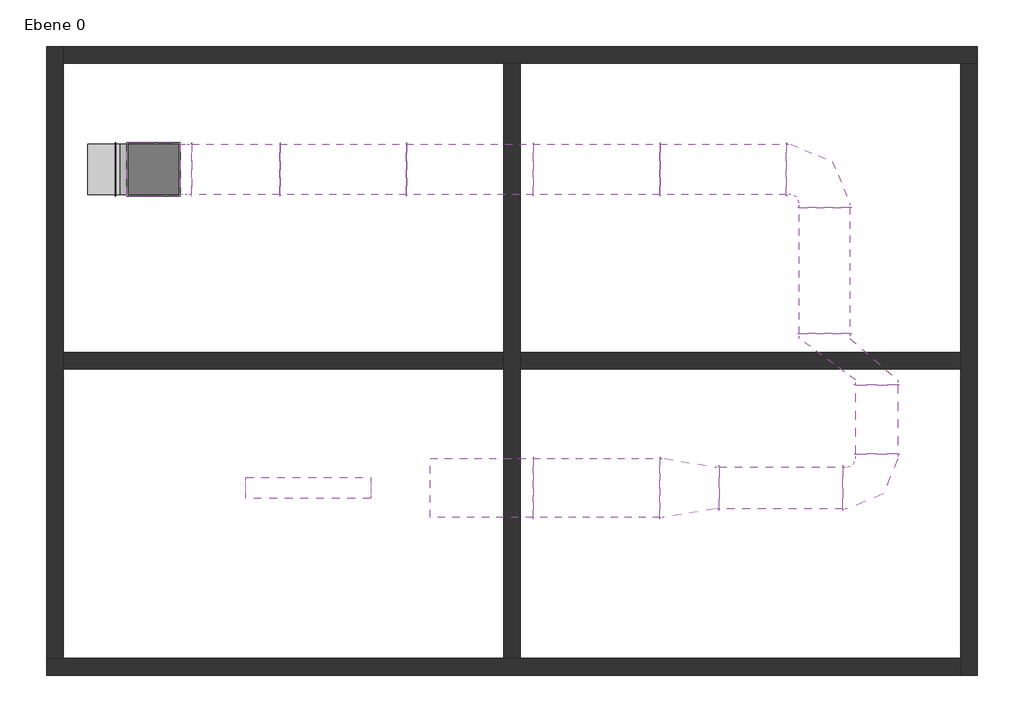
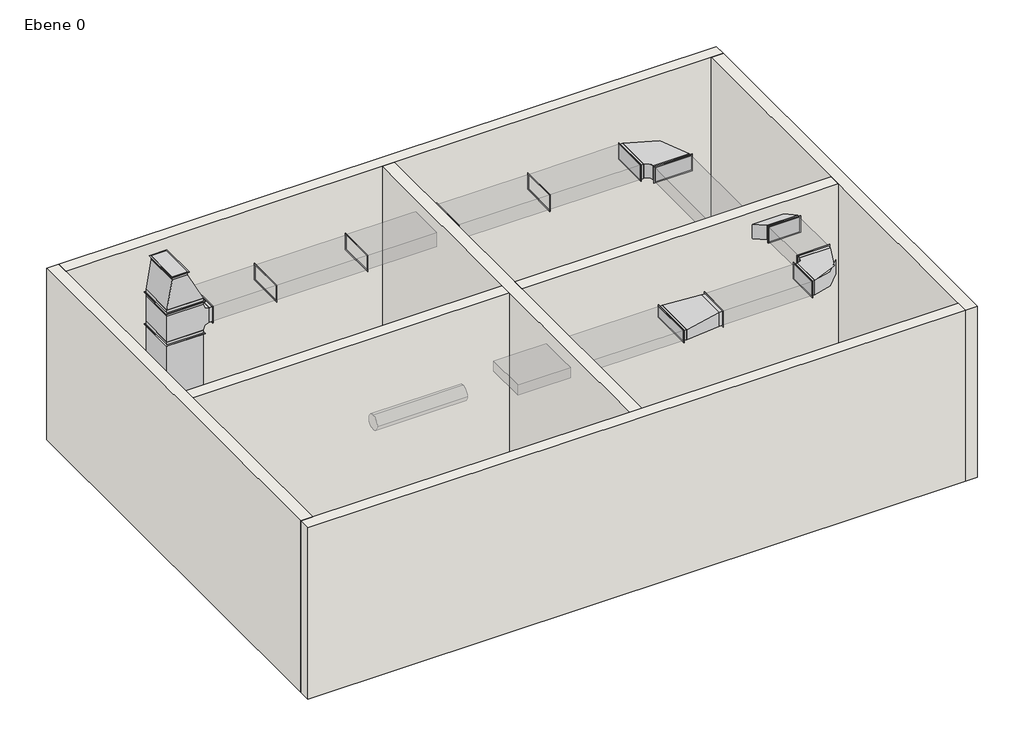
# One storey, incomplete: 13 duct segments, 12 duct fittings, 6 walls.
"""IFC4 building model written with IfcOpenShell, lengths in millimetres."""

import ifcopenshell
import ifcopenshell.guid

model = None  # the IFC model being written
_history = None  # IfcOwnerHistory: only IFC2X3 demands one
_inside = {}  # id of a spatial element -> (the spatial element, [elements in it])
_under = {}  # id of a project, library or spatial element -> (it, [spatial elements below it])
_declared = {}  # id of a project -> (the project, [libraries it declares])
_typed = {}  # id of a type object -> (the type object, [elements of that type])
_made_of = {}  # id of a material, layer set ... -> (it, [elements and type objects made of it])


def new_model(schema):
    """Start an empty IFC model of exactly this schema.

    Asked for "IFC4X3", IfcOpenShell would pick the latest addendum, in which some entities
    have other attributes; the version numbers below select the first issue.
    IFC2X3 requires an IfcOwnerHistory on every rooted entity: one is made here for all.
    """
    global model, _history
    if schema == "IFC4X3":
        model = ifcopenshell.file(schema_version=(4, 3, 0, 0))
    else:
        model = ifcopenshell.file(schema=schema)
    _inside.clear()
    _under.clear()
    _declared.clear()
    _typed.clear()
    _made_of.clear()
    _history = None
    if model.schema == "IFC2X3":
        org = make("IfcOrganization", Name="unknown")
        user = make(
            "IfcPersonAndOrganization",
            ThePerson=make("IfcPerson", FamilyName="unknown"),
            TheOrganization=org,
        )
        app = make(
            "IfcApplication",
            ApplicationDeveloper=org,
            Version="unknown",
            ApplicationFullName="unknown",
            ApplicationIdentifier="unknown",
        )
        _history = make(
            "IfcOwnerHistory",
            OwningUser=user,
            OwningApplication=app,
            ChangeAction="ADDED",
            CreationDate=0,
        )
    return model


def make(cls, **values):
    """One entity of the class cls with the attributes given. An attribute that is None is left unset."""
    return model.create_entity(
        cls, **{name: value for name, value in values.items() if value is not None}
    )


def rooted(cls, **values):
    """An entity with a GlobalId (a new one), such as an element, a storey or a relation."""
    return make(cls, GlobalId=ifcopenshell.guid.new(), OwnerHistory=_history, **values)


def si_unit(unit_type, name, prefix=None):
    """IfcSIUnit, for example si_unit("LENGTHUNIT", "METRE", prefix="MILLI")."""
    return make("IfcSIUnit", UnitType=unit_type, Prefix=prefix, Name=name)


def assignment(units):
    """IfcUnitAssignment: the units of a project."""
    return None if units is None else make("IfcUnitAssignment", Units=units)


def point(xyz):
    """IfcCartesianPoint."""
    return None if xyz is None else make("IfcCartesianPoint", Coordinates=xyz)


def direction(xyz):
    """IfcDirection."""
    return None if xyz is None else make("IfcDirection", DirectionRatios=xyz)


def frame(location, z_axis=None, x_axis=None):
    """IfcAxis2Placement3D, a coordinate frame: its origin and axes. An axis left out is left unset."""
    return make(
        "IfcAxis2Placement3D",
        Location=point(location),
        Axis=direction(z_axis),
        RefDirection=direction(x_axis),
    )


def frame_2d(location, x_axis=None):
    """IfcAxis2Placement2D, a coordinate frame in the plane: its origin and x axis."""
    return make(
        "IfcAxis2Placement2D", Location=point(location), RefDirection=direction(x_axis)
    )


def origin():
    """The frame at (0, 0, 0) with its axes left unset."""
    return frame((0.0, 0.0, 0.0))


def origin_with_axes():
    """The frame at (0, 0, 0) with the z axis (0, 0, 1) and the x axis (1, 0, 0) written out."""
    return frame((0.0, 0.0, 0.0), z_axis=(0.0, 0.0, 1.0), x_axis=(1.0, 0.0, 0.0))


def place(relative_to, where):
    """IfcLocalPlacement: puts the frame where relative to a parent placement (None: the world)."""
    return make(
        "IfcLocalPlacement", PlacementRelTo=relative_to, RelativePlacement=where
    )


def context(
    kind, dimensions, precision=None, world=None, true_north=None, identifier=None
):
    """IfcGeometricRepresentationContext, for example the 3D "Model" context."""
    return make(
        "IfcGeometricRepresentationContext",
        ContextIdentifier=identifier,
        ContextType=kind,
        CoordinateSpaceDimension=dimensions,
        Precision=precision,
        WorldCoordinateSystem=world,
        TrueNorth=true_north,
    )


def project(units=None, contexts=None):
    """IfcProject with its units and contexts."""
    return rooted(
        "IfcProject",
        Name="project",
        RepresentationContexts=contexts,
        UnitsInContext=assignment(units),
    )


def spatial(cls, under=None, at=None, **own):
    """A site, building, storey or space (cls), placed at a placement, below another one or the project."""
    s = rooted(cls, ObjectPlacement=at, **own)
    if under is not None:
        _under.setdefault(under.id(), (under, []))[1].append(s)
    return s


def polyline(points):
    """IfcPolyline through the points."""
    return make("IfcPolyline", Points=[point(p) for p in points])


def circle_curve(where, radius):
    """IfcCircle in the frame where."""
    return make("IfcCircle", Position=where, Radius=radius)


def trimmed(basis, trim1, trim2, sense, master):
    """IfcTrimmedCurve: the piece of a basis curve between two trims."""
    return make(
        "IfcTrimmedCurve",
        BasisCurve=basis,
        Trim1=trim1,
        Trim2=trim2,
        SenseAgreement=sense,
        MasterRepresentation=master,
    )


def segment(curve, same_sense, transition):
    """IfcCompositeCurveSegment."""
    return make(
        "IfcCompositeCurveSegment",
        Transition=transition,
        SameSense=same_sense,
        ParentCurve=curve,
    )


def composite_curve(segments, self_intersect=None):
    """IfcCompositeCurve: segments joined end to end."""
    return make("IfcCompositeCurve", Segments=segments, SelfIntersect=self_intersect)


def outline(outer, holes=None, kind="AREA"):
    """IfcArbitraryClosedProfileDef: a profile drawn as a closed curve; with holes, ...WithVoids."""
    if holes is None:
        return make("IfcArbitraryClosedProfileDef", ProfileType=kind, OuterCurve=outer)
    return make(
        "IfcArbitraryProfileDefWithVoids",
        ProfileType=kind,
        OuterCurve=outer,
        InnerCurves=holes,
    )


def extrude(swept, where, along, depth):
    """IfcExtrudedAreaSolid: the profile swept, set in the frame where, extruded along a direction by depth."""
    return make(
        "IfcExtrudedAreaSolid",
        SweptArea=swept,
        Position=where,
        ExtrudedDirection=direction(along),
        Depth=depth,
    )


def faces_of(points, faces, orient=None, outer=None):
    """IfcFace entities. A face is a list of loops; a loop is a list of indices into points, from 0.

    orient and outer hold one flag for each loop. By default every Orientation is true, the
    first loop of a face is its IfcFaceOuterBound and the others are IfcFaceBound.
    """
    made = []
    for i, loops in enumerate(faces):
        bounds = []
        for j, loop in enumerate(loops):
            is_outer = j == 0 if outer is None else outer[i][j]
            bounds.append(
                make(
                    "IfcFaceOuterBound" if is_outer else "IfcFaceBound",
                    Bound=make("IfcPolyLoop", Polygon=[points[k] for k in loop]),
                    Orientation=True if orient is None else orient[i][j],
                )
            )
        made.append(make("IfcFace", Bounds=bounds))
    return made


def faceted_brep(points, faces, orient=None, outer=None, voids=None):
    """IfcFacetedBrep: a solid bounded by flat faces; with voids (closed shells), ...WithVoids."""
    shared = [point(p) for p in points]
    hull = make("IfcClosedShell", CfsFaces=faces_of(shared, faces, orient, outer))
    if voids is None:
        return make("IfcFacetedBrep", Outer=hull)
    return make(
        "IfcFacetedBrepWithVoids",
        Outer=hull,
        Voids=[
            make(cls, CfsFaces=faces_of(shared, fs, o, b)) for cls, fs, o, b in voids
        ],
    )


def shape(context_of_items, identifier, shape_type, items):
    """IfcShapeRepresentation: the items that make up one representation, for example the "Body"."""
    return make(
        "IfcShapeRepresentation",
        ContextOfItems=context_of_items,
        RepresentationIdentifier=identifier,
        RepresentationType=shape_type,
        Items=items,
    )


def source(mapping_origin, context_of_items, identifier, shape_type, items):
    """IfcRepresentationMap: a shape defined once, which mapped items show again and again."""
    return make(
        "IfcRepresentationMap",
        MappingOrigin=mapping_origin,
        MappedRepresentation=shape(context_of_items, identifier, shape_type, items),
    )


def transform(
    local_origin,
    x_axis=None,
    y_axis=None,
    z_axis=None,
    scale=None,
    scale2=None,
    scale3=None,
    uniform=True,
):
    """IfcCartesianTransformationOperator3D, or its non-uniform kind. x_axis, y_axis, z_axis: its Axis1, 2, 3."""
    if uniform:
        return make(
            "IfcCartesianTransformationOperator3D",
            Axis1=direction(x_axis),
            Axis2=direction(y_axis),
            LocalOrigin=point(local_origin),
            Scale=scale,
            Axis3=direction(z_axis),
        )
    return make(
        "IfcCartesianTransformationOperator3DnonUniform",
        Axis1=direction(x_axis),
        Axis2=direction(y_axis),
        LocalOrigin=point(local_origin),
        Scale=scale,
        Axis3=direction(z_axis),
        Scale2=scale2,
        Scale3=scale3,
    )


def mapped(mapping_source, mapping_target):
    """IfcMappedItem: shows the shape of a source again, moved by a transform."""
    return make(
        "IfcMappedItem", MappingSource=mapping_source, MappingTarget=mapping_target
    )


def made_of(thing, what):
    """Note that an element or type object is made of a material, layer set ...; save() writes the relation."""
    if what is not None:
        _made_of.setdefault(what.id(), (what, []))[1].append(thing)
    return thing


def element(
    cls,
    number,
    at=None,
    inside=None,
    cuts=None,
    type_object=None,
    material=None,
    context=None,
    identifier="Body",
    shape_type=None,
    held_by="IfcProductDefinitionShape",
    body=None,
    shapes=None,
    **own,
):
    """One element of the class cls, such as IfcWall. Its Tag is "e" and its number.

    at: its placement. inside: the storey or other place that contains it. cuts: it is an
    opening in that element (IfcRelVoidsElement). A single representation is given by context,
    identifier, shape_type and body (its items); several are given by shapes. held_by: the class
    of the entity that holds the representations. save() writes the other relations.
    """
    e = rooted(cls, Tag="e%d" % number, ObjectPlacement=at, **own)
    if body is not None:
        shapes = [shape(context, identifier, shape_type, body)]
    if shapes is not None:
        e.Representation = make(held_by, Representations=shapes)
    if inside is not None:
        _inside.setdefault(inside.id(), (inside, []))[1].append(e)
    if cuts is not None:
        rooted(
            "IfcRelVoidsElement", RelatingBuildingElement=cuts, RelatedOpeningElement=e
        )
    if type_object is not None:
        _typed.setdefault(type_object.id(), (type_object, []))[1].append(e)
    return made_of(e, material)


def aggregate(whole, parts):
    """IfcRelAggregates: a whole, such as a stair, and the parts it consists of."""
    return rooted("IfcRelAggregates", RelatingObject=whole, RelatedObjects=parts)


def save(model, path):
    """Write the relations noted so far, then the file.

    IfcRelAggregates (storeys below a building ...), IfcRelContainedInSpatialStructure (elements
    in a storey), IfcRelDefinesByType, IfcRelAssociatesMaterial and IfcRelDeclares: one each for
    every whole, place, type object, material and project.
    """
    for whole, parts in _under.values():
        aggregate(whole, parts)
    for where, things in _inside.values():
        rooted(
            "IfcRelContainedInSpatialStructure",
            RelatedElements=things,
            RelatingStructure=where,
        )
    for kind, things in _typed.values():
        rooted("IfcRelDefinesByType", RelatedObjects=things, RelatingType=kind)
    for what, things in _made_of.values():
        rooted("IfcRelAssociatesMaterial", RelatedObjects=things, RelatingMaterial=what)
    for by, libraries in _declared.values():
        rooted("IfcRelDeclares", RelatingContext=by, RelatedDefinitions=libraries)
    model.write(path)


def standard_865bd023(model_context):
    return source(origin(), model_context, "Body", "SweptSolid", [
        extrude(outline(polyline([(300.0, 400.0), (-300.0, 400.0), (-300.0, 455.0), (300.0, 455.0), (300.0, 400.0)])), frame((0.0, 0.0, -125.0), z_axis=(0.0, 0.0, 1.0), x_axis=(1.0, 0.0, 0.0)), (0.0, 0.0, 1.0), 250.0),
        extrude(outline(polyline([(-455.0, 300.0), (-400.0, 300.0), (-400.0, -300.0), (-455.0, -300.0), (-455.0, 300.0)])), frame((0.0, 0.0, -125.0), z_axis=(0.0, 0.0, 1.0), x_axis=(1.0, 0.0, 0.0)), (0.0, 0.0, 1.0), 250.0),
        extrude(outline(composite_curve([segment(trimmed(circle_curve(frame_2d((-400.0, 400.0)), 700.0), [point((300.0, 400.0))], [point((-400.0, -300.0))], False, "CARTESIAN"), True, "CONTINUOUS"), segment(polyline([(-400.0, -300.0), (-400.0, 300.0)]), True, "CONTINUOUS"), segment(trimmed(circle_curve(frame_2d((-400.0, 400.0)), 100.0), [point((-400.0, 300.0))], [point((-300.0, 400.0))], True, "CARTESIAN"), True, "CONTINUOUS"), segment(polyline([(-300.0, 400.0), (300.0, 400.0)]), True, "CONTINUOUS")], self_intersect=False)), frame((0.0, 0.0, -125.0), z_axis=(0.0, 0.0, 1.0), x_axis=(1.0, 0.0, 0.0)), (0.0, 0.0, 1.0), 250.0),
        extrude(outline(polyline([(-455.0, -320.0), (-455.0, 320.0), (-450.0, 320.0), (-450.0, -320.0), (-455.0, -320.0)])), frame((0.0, 0.0, -145.0), z_axis=(0.0, 0.0, 1.0), x_axis=(1.0, 0.0, 0.0)), (0.0, 0.0, 1.0), 290.0),
        extrude(outline(polyline([(320.0, 450.0), (-320.0, 450.0), (-320.0, 455.0), (320.0, 455.0), (320.0, 450.0)])), frame((0.0, 0.0, -145.0), z_axis=(0.0, 0.0, 1.0), x_axis=(1.0, 0.0, 0.0)), (0.0, 0.0, 1.0), 290.0),
    ])


def standard_b8ae673c(model_context):
    return source(origin(), model_context, "Body", "SweptSolid", [
        extrude(outline(polyline([(-320.0, 145.0), (320.0, 145.0), (320.0, -145.0), (-320.0, -145.0), (-320.0, 145.0)]), holes=[polyline([(-300.0, 125.0), (-300.0, -125.0), (300.0, -125.0), (300.0, 125.0), (-300.0, 125.0)])]), frame((0.0, 0.0, 0.0), z_axis=(1.0, 0.0, 0.0), x_axis=(0.0, 1.0, 0.0)), (0.0, 0.0, 1.0), 5.0),
    ])


def standard_5b17af85(model_context):
    return source(origin(), model_context, "Body", "SweptSolid", [
        extrude(outline(polyline([(250.0, 350.0), (-250.0, 350.0), (-250.0, 405.0), (250.0, 405.0), (250.0, 350.0)])), frame((0.0, 0.0, -125.0), z_axis=(0.0, 0.0, 1.0), x_axis=(1.0, 0.0, 0.0)), (0.0, 0.0, 1.0), 250.0),
        extrude(outline(polyline([(-405.0, 250.0), (-350.0, 250.0), (-350.0, -250.0), (-405.0, -250.0), (-405.0, 250.0)])), frame((0.0, 0.0, -125.0), z_axis=(0.0, 0.0, 1.0), x_axis=(1.0, 0.0, 0.0)), (0.0, 0.0, 1.0), 250.0),
        extrude(outline(composite_curve([segment(trimmed(circle_curve(frame_2d((-350.0, 350.0)), 600.0), [point((250.0, 350.0))], [point((-350.0, -250.0))], False, "CARTESIAN"), True, "CONTINUOUS"), segment(polyline([(-350.0, -250.0), (-350.0, 250.0)]), True, "CONTINUOUS"), segment(trimmed(circle_curve(frame_2d((-350.0, 350.0)), 100.0), [point((-350.0, 250.0))], [point((-250.0, 350.0))], True, "CARTESIAN"), True, "CONTINUOUS"), segment(polyline([(-250.0, 350.0), (250.0, 350.0)]), True, "CONTINUOUS")], self_intersect=False)), frame((0.0, 0.0, -125.0), z_axis=(0.0, 0.0, 1.0), x_axis=(1.0, 0.0, 0.0)), (0.0, 0.0, 1.0), 250.0),
        extrude(outline(polyline([(-405.0, -270.0), (-405.0, 270.0), (-400.0, 270.0), (-400.0, -270.0), (-405.0, -270.0)])), frame((0.0, 0.0, -145.0), z_axis=(0.0, 0.0, 1.0), x_axis=(1.0, 0.0, 0.0)), (0.0, 0.0, 1.0), 290.0),
        extrude(outline(polyline([(270.0, 400.0), (-270.0, 400.0), (-270.0, 405.0), (270.0, 405.0), (270.0, 400.0)])), frame((0.0, 0.0, -145.0), z_axis=(0.0, 0.0, 1.0), x_axis=(1.0, 0.0, 0.0)), (0.0, 0.0, 1.0), 290.0),
    ])


def standard_06fb8837(model_context):
    return source(origin(), model_context, "Body", "SweptSolid", [
        extrude(outline(polyline([(555.0, 323.5465335), (555.0, 923.5465335), (610.0, 923.5465335), (610.0, 323.5465335), (555.0, 323.5465335)])), frame((0.0, 0.0, -125.0), z_axis=(0.0, 0.0, 1.0), x_axis=(1.0, 0.0, 0.0)), (0.0, 0.0, 1.0), 250.0),
        extrude(outline(polyline([(55.0, -250.0), (55.0, 250.0), (555.0, 923.5465335), (555.0, 323.5465335), (55.0, -250.0)])), frame((0.0, 0.0, -125.0), z_axis=(0.0, 0.0, 1.0), x_axis=(1.0, 0.0, 0.0)), (0.0, 0.0, 1.0), 250.0),
        extrude(outline(polyline([(0.0, -250.0), (0.0, 250.0), (55.0, 250.0), (55.0, -250.0), (0.0, -250.0)])), frame((0.0, 0.0, -125.0), z_axis=(0.0, 0.0, 1.0), x_axis=(1.0, 0.0, 0.0)), (0.0, 0.0, 1.0), 250.0),
        extrude(outline(polyline([(605.0, 303.5465335), (605.0, 943.5465335), (610.0, 943.5465335), (610.0, 303.5465335), (605.0, 303.5465335)])), frame((0.0, 0.0, -145.0), z_axis=(0.0, 0.0, 1.0), x_axis=(1.0, 0.0, 0.0)), (0.0, 0.0, 1.0), 290.0),
        extrude(outline(polyline([(0.0, -270.0), (0.0, 270.0), (5.0, 270.0), (5.0, -270.0), (0.0, -270.0)])), frame((0.0, 0.0, -145.0), z_axis=(0.0, 0.0, 1.0), x_axis=(1.0, 0.0, 0.0)), (0.0, 0.0, 1.0), 290.0),
    ])


def standard_ae849d8b(model_context):
    return source(origin(), model_context, "Body", "SweptSolid", [
        extrude(outline(polyline([(-370.0, 107.5), (370.0, 107.5), (370.0, -107.5), (-370.0, -107.5), (-370.0, 107.5)]), holes=[polyline([(-350.0, 87.5), (-350.0, -87.5), (350.0, -87.5), (350.0, 87.5), (-350.0, 87.5)])]), frame((0.0, 0.0, 0.0), z_axis=(1.0, 0.0, 0.0), x_axis=(0.0, 1.0, 0.0)), (0.0, 0.0, 1.0), 5.0),
    ])


def standard_6fa5d38b(model_context):
    return source(origin(), model_context, "Body", "SolidModel", [
        extrude(outline(polyline([(655.0, -250.0), (655.0, 250.0), (710.0, 250.0), (710.0, -250.0), (655.0, -250.0)])), frame((0.0, 0.0, -125.0), z_axis=(0.0, 0.0, 1.0), x_axis=(1.0, 0.0, 0.0)), (0.0, 0.0, 1.0), 250.0),
        faceted_brep([(655.0, 250.0, 125.0), (655.0, -250.0, 125.0), (655.0, -250.0, -125.0), (655.0, 250.0, -125.0), (55.0, 350.0, 87.5), (55.0, 350.0, -87.5), (55.0, -350.0, -87.5), (55.0, -350.0, 87.5)], [[[0, 1, 2, 3]], [[4, 5, 6, 7]], [[5, 4, 0, 3]], [[4, 7, 1, 0]], [[7, 6, 2, 1]], [[6, 5, 3, 2]]]),
        extrude(outline(polyline([(0.0, -350.0), (0.0, 350.0), (55.0, 350.0), (55.0, -350.0), (0.0, -350.0)])), frame((0.0, 0.0, -87.5), z_axis=(0.0, 0.0, 1.0), x_axis=(1.0, 0.0, 0.0)), (0.0, 0.0, 1.0), 175.0),
        extrude(outline(polyline([(705.0, -270.0), (705.0, 270.0), (710.0, 270.0), (710.0, -270.0), (705.0, -270.0)])), frame((0.0, 0.0, -145.0), z_axis=(0.0, 0.0, 1.0), x_axis=(1.0, 0.0, 0.0)), (0.0, 0.0, 1.0), 290.0),
        extrude(outline(polyline([(0.0, -370.0), (0.0, 370.0), (5.0, 370.0), (5.0, -370.0), (0.0, -370.0)])), frame((0.0, 0.0, -107.5), z_axis=(0.0, 0.0, 1.0), x_axis=(1.0, 0.0, 0.0)), (0.0, 0.0, 1.0), 215.0),
    ])


def standard_9a327c88(model_context):
    return source(origin(), model_context, "Body", "SweptSolid", [
        extrude(outline(polyline([(555.0, -300.0), (555.0, 300.0), (610.0, 300.0), (610.0, -300.0), (555.0, -300.0)])), frame((0.0, 0.0, -212.5), z_axis=(0.0, 0.0, 1.0), x_axis=(1.0, 0.0, 0.0)), (0.0, 0.0, 1.0), 250.0),
        extrude(outline(polyline([(300.0, 55.0), (-300.0, 55.0), (-212.5, 555.0), (37.5, 555.0), (300.0, 55.0)])), frame((0.0, -300.0, 0.0), z_axis=(0.0, 1.0, 0.0), x_axis=(0.0, 0.0, 1.0)), (0.0, 0.0, 1.0), 600.0),
        extrude(outline(polyline([(0.0, -300.0), (0.0, 300.0), (55.0, 300.0), (55.0, -300.0), (0.0, -300.0)])), frame((0.0, 0.0, -300.0), z_axis=(0.0, 0.0, 1.0), x_axis=(1.0, 0.0, 0.0)), (0.0, 0.0, 1.0), 600.0),
        extrude(outline(polyline([(605.0, -320.0), (605.0, 320.0), (610.0, 320.0), (610.0, -320.0), (605.0, -320.0)])), frame((0.0, 0.0, -232.5), z_axis=(0.0, 0.0, 1.0), x_axis=(1.0, 0.0, 0.0)), (0.0, 0.0, 1.0), 290.0),
        extrude(outline(polyline([(0.0, -320.0), (0.0, 320.0), (5.0, 320.0), (5.0, -320.0), (0.0, -320.0)])), frame((0.0, 0.0, -320.0), z_axis=(0.0, 0.0, 1.0), x_axis=(1.0, 0.0, 0.0)), (0.0, 0.0, 1.0), 640.0),
    ])


def standard_8eb34b0e(model_context):
    return source(origin(), model_context, "Body", "SweptSolid", [
        extrude(outline(polyline([(-125.0, -401.0), (125.0, -401.0), (125.0, -451.0), (-125.0, -451.0), (-125.0, -401.0)])), frame((0.0, 0.0, -300.0), z_axis=(0.0, 0.0, 1.0), x_axis=(1.0, 0.0, 0.0)), (0.0, 0.0, 1.0), 600.0),
        extrude(outline(polyline([(273.4, 300.0), (273.4, -300.0), (223.4, -300.0), (223.4, 300.0), (273.4, 300.0)])), frame((0.0, 0.0, -300.0), z_axis=(0.0, 0.0, 1.0), x_axis=(1.0, 0.0, 0.0)), (0.0, 0.0, 1.0), 600.0),
        extrude(outline(polyline([(-276.6, -300.0), (-276.6, 300.0), (-226.6, 300.0), (-226.6, -300.0), (-276.6, -300.0)])), frame((0.0, 0.0, -300.0), z_axis=(0.0, 0.0, 1.0), x_axis=(1.0, 0.0, 0.0)), (0.0, 0.0, 1.0), 600.0),
        extrude(outline(composite_curve([segment(trimmed(circle_curve(frame_2d((225.0, -400.0)), 100.0), [point((225.0, -300.0))], [point((125.0, -400.0))], True, "CARTESIAN"), True, "CONTINUOUS"), segment(polyline([(125.0, -400.0), (125.0, -401.0), (-125.0, -401.0), (-125.0, -400.0)]), True, "CONTINUOUS"), segment(trimmed(circle_curve(frame_2d((-225.0, -400.0)), 100.0), [point((-125.0, -400.0))], [point((-225.0, -300.0))], True, "CARTESIAN"), True, "CONTINUOUS"), segment(polyline([(-225.0, -300.0), (-226.6, -300.0), (-226.6, 300.0), (223.4, 300.0), (223.4, -300.0), (225.0, -300.0)]), True, "CONTINUOUS")], self_intersect=False)), frame((0.0, 0.0, -300.0), z_axis=(0.0, 0.0, 1.0), x_axis=(1.0, 0.0, 0.0)), (0.0, 0.0, 1.0), 600.0),
        extrude(outline(polyline([(145.0, -456.0), (-145.0, -456.0), (-145.0, -451.0), (145.0, -451.0), (145.0, -456.0)])), frame((0.0, 0.0, -320.0), z_axis=(0.0, 0.0, 1.0), x_axis=(1.0, 0.0, 0.0)), (0.0, 0.0, 1.0), 640.0),
        extrude(outline(polyline([(278.4, 320.0), (278.4, -320.0), (273.4, -320.0), (273.4, 320.0), (278.4, 320.0)])), frame((0.0, 0.0, -320.0), z_axis=(0.0, 0.0, 1.0), x_axis=(1.0, 0.0, 0.0)), (0.0, 0.0, 1.0), 640.0),
        extrude(outline(polyline([(-276.6, 320.0), (-276.6, -320.0), (-281.6, -320.0), (-281.6, 320.0), (-276.6, 320.0)])), frame((0.0, 0.0, -320.0), z_axis=(0.0, 0.0, 1.0), x_axis=(1.0, 0.0, 0.0)), (0.0, 0.0, 1.0), 640.0),
    ])


def standard_352db8d4(model_context):
    return source(origin(), model_context, "Body", "SweptSolid", [
        extrude(outline(polyline([(300.0, 400.0), (-300.0, 400.0), (-300.0, 455.0), (300.0, 455.0), (300.0, 400.0)])), frame((0.0, 0.0, -300.0), z_axis=(0.0, 0.0, 1.0), x_axis=(1.0, 0.0, 0.0)), (0.0, 0.0, 1.0), 600.0),
        extrude(outline(polyline([(-455.0, 300.0), (-400.0, 300.0), (-400.0, -300.0), (-455.0, -300.0), (-455.0, 300.0)])), frame((0.0, 0.0, -300.0), z_axis=(0.0, 0.0, 1.0), x_axis=(1.0, 0.0, 0.0)), (0.0, 0.0, 1.0), 600.0),
        extrude(outline(composite_curve([segment(trimmed(circle_curve(frame_2d((-400.0, 400.0)), 700.0), [point((300.0, 400.0))], [point((-400.0, -300.0))], False, "CARTESIAN"), True, "CONTINUOUS"), segment(polyline([(-400.0, -300.0), (-400.0, 300.0)]), True, "CONTINUOUS"), segment(trimmed(circle_curve(frame_2d((-400.0, 400.0)), 100.0), [point((-400.0, 300.0))], [point((-300.0, 400.0))], True, "CARTESIAN"), True, "CONTINUOUS"), segment(polyline([(-300.0, 400.0), (300.0, 400.0)]), True, "CONTINUOUS")], self_intersect=False)), frame((0.0, 0.0, -300.0), z_axis=(0.0, 0.0, 1.0), x_axis=(1.0, 0.0, 0.0)), (0.0, 0.0, 1.0), 600.0),
        extrude(outline(polyline([(-455.0, -320.0), (-455.0, 320.0), (-450.0, 320.0), (-450.0, -320.0), (-455.0, -320.0)])), frame((0.0, 0.0, -320.0), z_axis=(0.0, 0.0, 1.0), x_axis=(1.0, 0.0, 0.0)), (0.0, 0.0, 1.0), 640.0),
        extrude(outline(polyline([(320.0, 450.0), (-320.0, 450.0), (-320.0, 455.0), (320.0, 455.0), (320.0, 450.0)])), frame((0.0, 0.0, -320.0), z_axis=(0.0, 0.0, 1.0), x_axis=(1.0, 0.0, 0.0)), (0.0, 0.0, 1.0), 640.0),
    ])


model = new_model("IFC4")

# Units and contexts
model_context = context("Model", 3, world=origin())
ifc_project = project(units=[si_unit("LENGTHUNIT", "METRE", prefix="MILLI")], contexts=[model_context])

# Site, building, storey
site = spatial("IfcSite", under=ifc_project)
building = spatial("IfcBuilding", under=site)
storey = spatial("IfcBuildingStorey", under=building, Name="Ebene 0", Elevation=0.0)

# Duct fittings
placement = place(None, origin())
standard_shape = standard_865bd023(model_context)
element("IfcDuctFitting", 1, ObjectType="Bogen rechteck BS : Standard", at=placement, inside=storey, context=model_context, shape_type="MappedRepresentation", body=[
    mapped(standard_shape, transform((9176.0301103, 5932.8790279, 2664.0897678), x_axis=(0.0, 1.0, 0.0), y_axis=(-1.0, 0.0, 0.0), z_axis=(0.0, 0.0, 1.0))),
])
standard_2_shape = standard_b8ae673c(model_context)
element("IfcDuctFitting", 2, ObjectType="Flansch rechteck : Standard", at=placement, inside=storey, context=model_context, shape_type="MappedRepresentation", body=[
    mapped(standard_2_shape, transform((2681.0301583, 5932.8790279, 2664.0897678), x_axis=(1.0, 0.0, 0.0), y_axis=(0.0, 1.0, 0.0), z_axis=(0.0, 0.0, 1.0))),
])
element("IfcDuctFitting", 3, ObjectType="Flansch rechteck : Standard", at=placement, inside=storey, context=model_context, shape_type="MappedRepresentation", body=[
    mapped(standard_2_shape, transform((4191.0302063, 5932.8790279, 2664.0897678), x_axis=(1.0, 0.0, 0.0), y_axis=(0.0, 1.0, 0.0), z_axis=(0.0, 0.0, 1.0))),
])
element("IfcDuctFitting", 4, ObjectType="Flansch rechteck : Standard", at=placement, inside=storey, context=model_context, shape_type="MappedRepresentation", body=[
    mapped(standard_2_shape, transform((5701.0302543, 5932.8790279, 2664.0897678), x_axis=(1.0, 0.0, 0.0), y_axis=(0.0, 1.0, 0.0), z_axis=(0.0, 0.0, 1.0))),
])
element("IfcDuctFitting", 5, ObjectType="Flansch rechteck : Standard", at=placement, inside=storey, context=model_context, shape_type="MappedRepresentation", body=[
    mapped(standard_2_shape, transform((7211.0303023, 5932.8790279, 2664.0897678), x_axis=(1.0, 0.0, 0.0), y_axis=(0.0, 1.0, 0.0), z_axis=(0.0, 0.0, 1.0))),
])
standard_3_shape = standard_5b17af85(model_context)
element("IfcDuctFitting", 6, ObjectType="Bogen rechteck BS : Standard", at=placement, inside=storey, context=model_context, shape_type="MappedRepresentation", body=[
    mapped(standard_3_shape, transform((9799.5766439, 2132.8790279, 2664.0897678), x_axis=(1.0, 0.0, 0.0), y_axis=(0.0, 1.0, 0.0), z_axis=(0.0, 0.0, 1.0))),
])
standard_4_shape = standard_06fb8837(model_context)
element("IfcDuctFitting", 7, ObjectType="Übergang rechteck UA : Standard", at=placement, inside=storey, context=model_context, shape_type="MappedRepresentation", body=[
    mapped(standard_4_shape, transform((9799.5766439, 3362.8789799, 2664.0897678), x_axis=(0.0, 1.0, 0.0), y_axis=(-1.0, 0.0, 0.0), z_axis=(0.0, 0.0, 1.0))),
])
standard_5_shape = standard_ae849d8b(model_context)
element("IfcDuctFitting", 8, ObjectType="Flansch rechteck : Standard", at=placement, inside=storey, context=model_context, shape_type="MappedRepresentation", body=[
    mapped(standard_5_shape, transform((5706.0300143, 2132.8790279, 2664.0897678), x_axis=(-1.0, 0.0, 0.0), y_axis=(0.0, -1.0, 0.0), z_axis=(0.0, 0.0, 1.0))),
])
standard_6_shape = standard_6fa5d38b(model_context)
element("IfcDuctFitting", 9, ObjectType="Übergang rechteck UA : Standard", at=placement, inside=storey, context=model_context, shape_type="MappedRepresentation", body=[
    mapped(standard_6_shape, transform((7211.0300623, 2132.8790279, 2664.0897678), x_axis=(1.0, 0.0, 0.0), y_axis=(0.0, 1.0, 0.0), z_axis=(0.0, 0.0, 1.0))),
])
standard_7_shape = standard_9a327c88(model_context)
element("IfcDuctFitting", 10, ObjectType="Übergang rechteck UA : Standard", at=placement, inside=storey, context=model_context, shape_type="MappedRepresentation", body=[
    mapped(standard_7_shape, transform((1176.0301103, 5932.8790279, 2942.4897678), x_axis=(0.0, 0.0, 1.0), y_axis=(0.0, -1.0, 0.0), z_axis=(1.0, 0.0, 0.0))),
])
standard_8_shape = standard_8eb34b0e(model_context)
element("IfcDuctFitting", 11, ObjectType="T-Stück rechteck gerade TG : Standard", at=placement, inside=storey, context=model_context, shape_type="MappedRepresentation", body=[
    mapped(standard_8_shape, transform((1176.0301103, 5932.8790279, 2664.0897678), x_axis=(0.0, 0.0, 1.0), y_axis=(-1.0, 0.0, 0.0), z_axis=(0.0, -1.0, 0.0))),
])
standard_9_shape = standard_352db8d4(model_context)
element("IfcDuctFitting", 12, ObjectType="Bogen rechteck BS : Standard", at=placement, inside=storey, context=model_context, shape_type="MappedRepresentation", body=[
    mapped(standard_9_shape, transform((1176.0301103, 5932.8790279, 368.4), x_axis=(0.0, 0.0, -1.0), y_axis=(-1.0, 0.0, 0.0), z_axis=(0.0, 1.0, 0.0))),
])

# Duct segments
element("IfcDuctSegment", 13, ObjectType="Bogen - T-Stück", at=placement, inside=storey, context=model_context, shape_type="SweptSolid", body=[
    extrude(outline(polyline([(7216.0303023, 5632.8790279), (7216.0303023, 6232.8790279), (8721.0301103, 6232.8790279), (8721.0301103, 5632.8790279), (7216.0303023, 5632.8790279)])), frame((0.0, 0.0, 2539.0897678), z_axis=(0.0, 0.0, 1.0), x_axis=(1.0, 0.0, 0.0)), (0.0, 0.0, 1.0), 250.0),
])
element("IfcDuctSegment", 14, ObjectType="Bogen - T-Stück", at=placement, inside=storey, context=model_context, shape_type="SweptSolid", body=[
    extrude(outline(polyline([(5701.0300143, 2482.8790279), (5701.0300143, 1782.8790279), (4476.0301103, 1782.8790279), (4476.0301103, 2482.8790279), (5701.0300143, 2482.8790279)])), frame((0.0, 0.0, 2576.5897678), z_axis=(0.0, 0.0, 1.0), x_axis=(1.0, 0.0, 0.0)), (0.0, 0.0, 1.0), 175.0),
])
element("IfcDuctSegment", 15, ObjectType="Bogen - Stutzen", at=placement, inside=storey, context=model_context, shape_type="SweptSolid", body=[
    extrude(outline(composite_curve([segment(trimmed(circle_curve(frame_2d((2132.8790279, 2664.0897678)), 125.0), [point((2257.8790279, 2664.0897678))], [point((2132.8790279, 2539.0897678))], False, "CARTESIAN"), True, "CONTINUOUS"), segment(trimmed(circle_curve(frame_2d((2132.8790279, 2664.0897678)), 125.0), [point((2132.8790279, 2539.0897678))], [point((2007.8790279, 2664.0897678))], False, "CARTESIAN"), True, "CONTINUOUS"), segment(trimmed(circle_curve(frame_2d((2132.8790279, 2664.0897678)), 125.0), [point((2007.8790279, 2664.0897678))], [point((2132.8790279, 2789.0897678))], False, "CARTESIAN"), True, "CONTINUOUS"), segment(trimmed(circle_curve(frame_2d((2132.8790279, 2664.0897678)), 125.0), [point((2132.8790279, 2789.0897678))], [point((2257.8790279, 2664.0897678))], False, "CARTESIAN"), True, "CONTINUOUS")], self_intersect=False)), frame((2276.0301103, 0.0, 0.0), z_axis=(1.0, 0.0, 0.0), x_axis=(0.0, 1.0, 0.0)), (0.0, 0.0, 1.0), 1490.0),
])
element("IfcDuctSegment", 16, ObjectType="Bogen - T-Stück", at=placement, inside=storey, context=model_context, shape_type="SweptSolid", body=[
    extrude(outline(polyline([(1632.0301103, 5632.8790279), (1632.0301103, 6232.8790279), (2681.0301583, 6232.8790279), (2681.0301583, 5632.8790279), (1632.0301103, 5632.8790279)])), frame((0.0, 0.0, 2539.0897678), z_axis=(0.0, 0.0, 1.0), x_axis=(1.0, 0.0, 0.0)), (0.0, 0.0, 1.0), 250.0),
])
element("IfcDuctSegment", 17, ObjectType="Bogen - T-Stück", at=placement, inside=storey, context=model_context, shape_type="SweptSolid", body=[
    extrude(outline(polyline([(2686.0301583, 5632.8790279), (2686.0301583, 6232.8790279), (4191.0302063, 6232.8790279), (4191.0302063, 5632.8790279), (2686.0301583, 5632.8790279)])), frame((0.0, 0.0, 2539.0897678), z_axis=(0.0, 0.0, 1.0), x_axis=(1.0, 0.0, 0.0)), (0.0, 0.0, 1.0), 250.0),
])
element("IfcDuctSegment", 18, ObjectType="Bogen - T-Stück", at=placement, inside=storey, context=model_context, shape_type="SweptSolid", body=[
    extrude(outline(polyline([(4196.0302063, 5632.8790279), (4196.0302063, 6232.8790279), (5701.0302543, 6232.8790279), (5701.0302543, 5632.8790279), (4196.0302063, 5632.8790279)])), frame((0.0, 0.0, 2539.0897678), z_axis=(0.0, 0.0, 1.0), x_axis=(1.0, 0.0, 0.0)), (0.0, 0.0, 1.0), 250.0),
])
element("IfcDuctSegment", 19, ObjectType="Bogen - T-Stück", at=placement, inside=storey, context=model_context, shape_type="SweptSolid", body=[
    extrude(outline(polyline([(5706.0302543, 5632.8790279), (5706.0302543, 6232.8790279), (7211.0303023, 6232.8790279), (7211.0303023, 5632.8790279), (5706.0302543, 5632.8790279)])), frame((0.0, 0.0, 2539.0897678), z_axis=(0.0, 0.0, 1.0), x_axis=(1.0, 0.0, 0.0)), (0.0, 0.0, 1.0), 250.0),
])
element("IfcDuctSegment", 20, ObjectType="Bogen - T-Stück", at=placement, inside=storey, context=model_context, shape_type="SweptSolid", body=[
    extrude(outline(polyline([(8876.0301103, 5477.8790279), (9476.0301103, 5477.8790279), (9476.0301103, 3972.8789799), (8876.0301103, 3972.8789799), (8876.0301103, 5477.8790279)])), frame((0.0, 0.0, 2539.0897678), z_axis=(0.0, 0.0, 1.0), x_axis=(1.0, 0.0, 0.0)), (0.0, 0.0, 1.0), 250.0),
])
element("IfcDuctSegment", 21, ObjectType="Bogen - T-Stück", at=placement, inside=storey, context=model_context, shape_type="SweptSolid", body=[
    extrude(outline(polyline([(9394.5766439, 2382.8790279), (9394.5766439, 1882.8790279), (7921.0300623, 1882.8790279), (7921.0300623, 2382.8790279), (9394.5766439, 2382.8790279)])), frame((0.0, 0.0, 2539.0897678), z_axis=(0.0, 0.0, 1.0), x_axis=(1.0, 0.0, 0.0)), (0.0, 0.0, 1.0), 250.0),
])
element("IfcDuctSegment", 22, ObjectType="Bogen - T-Stück", at=placement, inside=storey, context=model_context, shape_type="SweptSolid", body=[
    extrude(outline(polyline([(7211.0300623, 2482.8790279), (7211.0300623, 1782.8790279), (5706.0300143, 1782.8790279), (5706.0300143, 2482.8790279), (7211.0300623, 2482.8790279)])), frame((0.0, 0.0, 2576.5897678), z_axis=(0.0, 0.0, 1.0), x_axis=(1.0, 0.0, 0.0)), (0.0, 0.0, 1.0), 175.0),
])
element("IfcDuctSegment", 23, ObjectType="Bogen - T-Stück", at=placement, inside=storey, context=model_context, shape_type="SweptSolid", body=[
    extrude(outline(polyline([(10049.5766439, 2537.8790279), (9549.5766439, 2537.8790279), (9549.5766439, 3362.8789799), (10049.5766439, 3362.8789799), (10049.5766439, 2537.8790279)])), frame((0.0, 0.0, 2539.0897678), z_axis=(0.0, 0.0, 1.0), x_axis=(1.0, 0.0, 0.0)), (0.0, 0.0, 1.0), 250.0),
])
element("IfcDuctSegment", 24, ObjectType="Bogen - T-Stück", at=placement, inside=storey, context=model_context, shape_type="SweptSolid", body=[
    extrude(outline(polyline([(1476.0301103, 6232.8790279), (1476.0301103, 5632.8790279), (876.0301103, 5632.8790279), (876.0301103, 6232.8790279), (1476.0301103, 6232.8790279)])), frame((0.0, 0.0, 823.4), z_axis=(0.0, 0.0, 1.0), x_axis=(1.0, 0.0, 0.0)), (0.0, 0.0, 1.0), 1559.0897678),
])
element("IfcDuctSegment", 25, ObjectType="Bogen - T-Stück", at=placement, inside=storey, context=model_context, shape_type="SweptSolid", body=[
    extrude(outline(polyline([(721.0301103, 6232.8790279), (721.0301103, 5632.8790279), (388.5301103, 5632.8790279), (388.5301103, 6232.8790279), (721.0301103, 6232.8790279)])), frame((0.0, 0.0, 68.4), z_axis=(0.0, 0.0, 1.0), x_axis=(1.0, 0.0, 0.0)), (0.0, 0.0, 1.0), 600.0),
])

# Walls
element("IfcWall", 26, ObjectType="Standard", at=placement, inside=storey, context=model_context, shape_type="Brep", body=[
    faceted_brep([(-100.0, -100.0, 0.0), (10800.0, -100.0, 0.0), (10800.0, -100.0, 3000.0), (-100.0, -100.0, 3000.0), (-100.0, 100.0, 0.0), (-100.0, 100.0, 3000.0), (100.0, 100.0, 3000.0), (5350.0, 100.0, 3000.0), (5550.0, 100.0, 3000.0), (10800.0, 100.0, 3000.0), (10800.0, 100.0, 0.0), (5550.0, 100.0, 0.0), (5350.0, 100.0, 0.0), (100.0, 100.0, 0.0)], [[[0, 1, 2, 3]], [[4, 5, 6, 7, 8, 9, 10, 11, 12, 13]], [[1, 0, 4, 13, 12, 11, 10]], [[3, 2, 9, 8, 7, 6, 5]], [[0, 3, 5, 4]], [[2, 1, 10, 9]]]),
])
element("IfcWall", 27, ObjectType="Standard", at=placement, inside=storey, context=model_context, shape_type="Brep", body=[
    faceted_brep([(-100.0, 7400.0, 0.0), (-100.0, 100.0, 0.0), (-100.0, 100.0, 3000.0), (-100.0, 7400.0, 3000.0), (100.0, 7400.0, 0.0), (100.0, 7400.0, 3000.0), (100.0, 7200.0, 3000.0), (100.0, 3750.0, 3000.0), (100.0, 3550.0, 3000.0), (100.0, 100.0, 3000.0), (100.0, 100.0, 0.0), (100.0, 3550.0, 0.0), (100.0, 3750.0, 0.0), (100.0, 7200.0, 0.0)], [[[0, 1, 2, 3]], [[4, 5, 6, 7, 8, 9, 10, 11, 12, 13]], [[1, 0, 4, 13, 12, 11, 10]], [[3, 2, 9, 8, 7, 6, 5]], [[0, 3, 5, 4]], [[2, 1, 10, 9]]]),
])
element("IfcWall", 28, ObjectType="Standard", at=placement, inside=storey, context=model_context, shape_type="Brep", body=[
    faceted_brep([(11000.0, 7400.0, 0.0), (100.0, 7400.0, 0.0), (100.0, 7400.0, 3000.0), (11000.0, 7400.0, 3000.0), (11000.0, 7200.0, 0.0), (11000.0, 7200.0, 3000.0), (10800.0, 7200.0, 3000.0), (5550.0, 7200.0, 3000.0), (5350.0, 7200.0, 3000.0), (100.0, 7200.0, 3000.0), (100.0, 7200.0, 0.0), (5350.0, 7200.0, 0.0), (5550.0, 7200.0, 0.0), (10800.0, 7200.0, 0.0)], [[[0, 1, 2, 3]], [[4, 5, 6, 7, 8, 9, 10, 11, 12, 13]], [[1, 0, 4, 13, 12, 11, 10]], [[3, 2, 9, 8, 7, 6, 5]], [[0, 3, 5, 4]], [[2, 1, 10, 9]]]),
])
element("IfcWall", 29, ObjectType="Standard", at=placement, inside=storey, context=model_context, shape_type="Brep", body=[
    faceted_brep([(11000.0, -100.0, 0.0), (11000.0, 7200.0, 0.0), (11000.0, 7200.0, 3000.0), (11000.0, -100.0, 3000.0), (10800.0, -100.0, 0.0), (10800.0, -100.0, 3000.0), (10800.0, 100.0, 3000.0), (10800.0, 3550.0, 3000.0), (10800.0, 3750.0, 3000.0), (10800.0, 7200.0, 3000.0), (10800.0, 7200.0, 0.0), (10800.0, 3750.0, 0.0), (10800.0, 3550.0, 0.0), (10800.0, 100.0, 0.0)], [[[0, 1, 2, 3]], [[4, 5, 6, 7, 8, 9, 10, 11, 12, 13]], [[1, 0, 4, 13, 12, 11, 10]], [[3, 2, 9, 8, 7, 6, 5]], [[0, 3, 5, 4]], [[2, 1, 10, 9]]]),
])
element("IfcWall", 30, ObjectType="Standard", at=placement, inside=storey, context=model_context, shape_type="Brep", body=[
    faceted_brep([(5350.0, 7200.0, 0.0), (5350.0, 3750.0, 0.0), (5350.0, 3550.0, 0.0), (5350.0, 100.0, 0.0), (5350.0, 100.0, 3000.0), (5350.0, 3550.0, 3000.0), (5350.0, 3750.0, 3000.0), (5350.0, 7200.0, 3000.0), (5550.0, 7200.0, 0.0), (5550.0, 7200.0, 3000.0), (5550.0, 3750.0, 3000.0), (5550.0, 3550.0, 3000.0), (5550.0, 100.0, 3000.0), (5550.0, 100.0, 0.0), (5550.0, 3550.0, 0.0), (5550.0, 3750.0, 0.0)], [[[0, 1, 2, 3, 4, 5, 6, 7]], [[8, 9, 10, 11, 12, 13, 14, 15]], [[3, 2, 1, 0, 8, 15, 14, 13]], [[7, 6, 5, 4, 12, 11, 10, 9]], [[4, 3, 13, 12]], [[0, 7, 9, 8]]]),
])
element("IfcWall", 31, ObjectType="Standard", at=placement, inside=storey, context=model_context, shape_type="SweptSolid", body=[
    extrude(outline(polyline([(100.0, 3550.0), (100.0, 3750.0), (5350.0, 3750.0), (5350.0, 3550.0), (100.0, 3550.0)])), origin_with_axes(), (0.0, 0.0, 1.0), 3000.0),
    extrude(outline(polyline([(10800.0, 3750.0), (10800.0, 3550.0), (5550.0, 3550.0), (5550.0, 3750.0), (10800.0, 3750.0)])), origin_with_axes(), (0.0, 0.0, 1.0), 3000.0),
])

save(model, "model.ifc")
